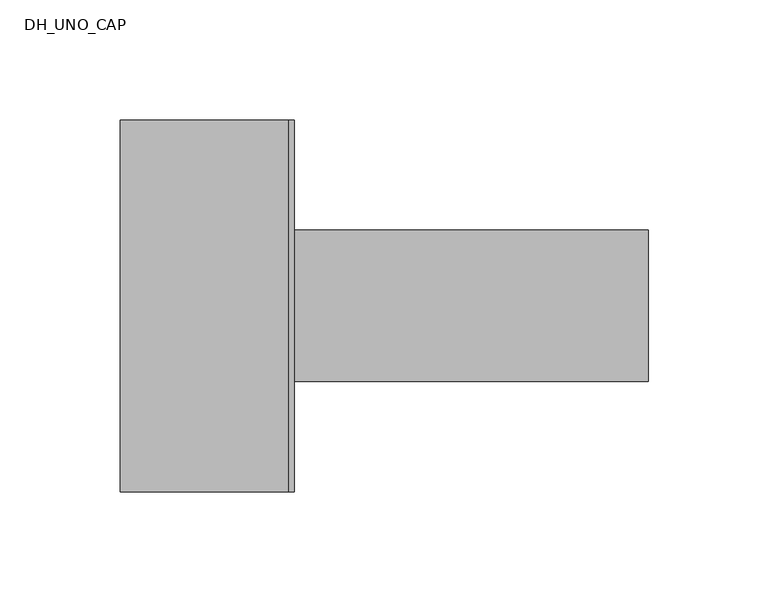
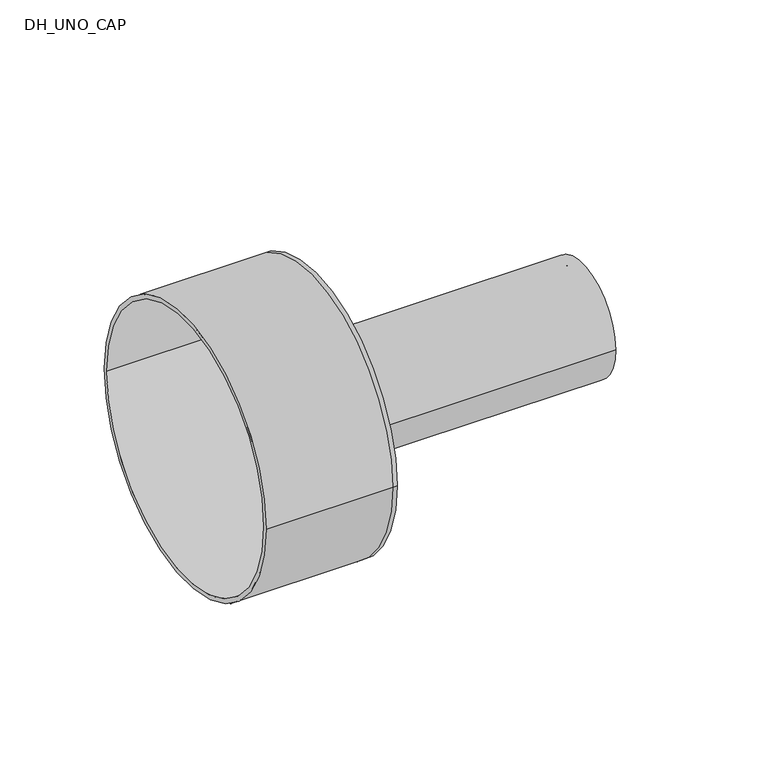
"""IFC4 building model written with IfcOpenShell, lengths in millimetres: pipe fitting geometry, DH_UNO_CAP : RAUVIPEX UNO 11 Heating - Solid Cap."""

from ifc_helpers import new_model, si_unit, point, frame, origin, origin_2d, place, context, project, spatial, polyline, circle_curve, trimmed, segment, composite_curve, outline, extrude, source, transform, mapped, element, save
from ifc_brep_helpers import plane_surface, cylinder_surface, revolved_surface, advanced_brep


def dh_uno_cap_1999be1b(model_context):
    return source(origin(), model_context, "Body", "SolidModel", [
        extrude(outline(composite_curve([segment(trimmed(circle_curve(origin_2d(), 31.5), [point((-31.5, 0.0))], [point((31.5, 0.0))], False, "CARTESIAN"), True, "CONTINUOUS"), segment(trimmed(circle_curve(origin_2d(), 31.5), [point((31.5, 0.0))], [point((-31.5, 0.0))], False, "CARTESIAN"), True, "CONTINUOUS")], self_intersect=False), holes=[composite_curve([segment(trimmed(circle_curve(origin_2d(), 25.7), [point((-25.7, 0.0))], [point((25.7, 0.0))], True, "CARTESIAN"), True, "CONTINUOUS"), segment(trimmed(circle_curve(origin_2d(), 25.7), [point((25.7, 0.0))], [point((-25.7, 0.0))], True, "CARTESIAN"), True, "CONTINUOUS")], self_intersect=False)]), frame((0.0, 0.0, 0.0), z_axis=(1.0, 0.0, 0.0), x_axis=(0.0, 1.0, 0.0)), (0.0, 0.0, 1.0), 150.0),
        advanced_brep(
        [(-70.0, -77.5, 0.0), (-70.0, 77.5, 0.0), (-70.0, -75.0, 0.0), (-70.0, 75.0, 0.0), (0.0, -75.0, 0.0), (0.0, 75.0, 0.0), (0.0, -77.5, 0.0), (0.0, 77.5, 0.0), (0.0, 31.5, 0.0), (0.0, -31.5, 0.0), (2.5, -77.5, 0.0), (2.5, 77.5, 0.0), (2.5, -31.5, 0.0), (2.5, 31.5, 0.0)],
        [
            (0, 1, circle_curve(frame((-70.0, 0.0, 0.0), z_axis=(-1.0, 0.0, 0.0), x_axis=(0.0, 1.0, 0.0)), 77.5)),
            (1, 0, circle_curve(frame((-70.0, 0.0, 0.0), z_axis=(-1.0, 0.0, 0.0), x_axis=(0.0, 1.0, 0.0)), 77.5)),
            (2, 3, circle_curve(frame((-70.0, 0.0, 0.0), z_axis=(1.0, 0.0, 0.0), x_axis=(0.0, 1.0, 0.0)), 75.0)),
            (3, 2, circle_curve(frame((-70.0, 0.0, 0.0), z_axis=(1.0, 0.0, 0.0), x_axis=(0.0, 1.0, 0.0)), 75.0)),
            (2, 4),
            (4, 5, circle_curve(frame((0.0, 0.0, 0.0), z_axis=(1.0, 0.0, 0.0), x_axis=(0.0, 1.0, 0.0)), 75.0)),
            (5, 3),
            (5, 4, circle_curve(frame((0.0, 0.0, 0.0), z_axis=(1.0, 0.0, 0.0), x_axis=(0.0, 1.0, 0.0)), 75.0)),
            (0, 6),
            (6, 7, circle_curve(frame((0.0, 0.0, 0.0), z_axis=(-1.0, 0.0, 0.0), x_axis=(0.0, 1.0, 0.0)), 77.5)),
            (7, 1),
            (7, 6, circle_curve(frame((0.0, 0.0, 0.0), z_axis=(-1.0, 0.0, 0.0), x_axis=(0.0, 1.0, 0.0)), 77.5)),
            (8, 9, circle_curve(frame((0.0, 0.0, 0.0), z_axis=(1.0, 0.0, 0.0), x_axis=(0.0, 1.0, 0.0)), 31.5)),
            (9, 8, circle_curve(frame((0.0, 0.0, 0.0), z_axis=(1.0, 0.0, 0.0), x_axis=(0.0, 1.0, 0.0)), 31.5)),
            (10, 11, circle_curve(frame((2.5, 0.0, 0.0), z_axis=(1.0, 0.0, 0.0), x_axis=(0.0, 1.0, 0.0)), 77.5)),
            (11, 10, circle_curve(frame((2.5, 0.0, 0.0), z_axis=(1.0, 0.0, 0.0), x_axis=(0.0, 1.0, 0.0)), 77.5)),
            (12, 13, circle_curve(frame((2.5, 0.0, 0.0), z_axis=(-1.0, 0.0, 0.0), x_axis=(0.0, 1.0, 0.0)), 31.5)),
            (13, 12, circle_curve(frame((2.5, 0.0, 0.0), z_axis=(-1.0, 0.0, 0.0), x_axis=(0.0, 1.0, 0.0)), 31.5)),
            (11, 7),
            (6, 10),
            (8, 13),
            (12, 9),
        ],
        [
            plane_surface(frame((-70.0, 0.0, 0.0), z_axis=(-1.0, 0.0, 0.0), x_axis=(0.0, 0.0, 1.0))),
            revolved_surface(polyline([(0.0, 75.0, 0.0), (-70.0, 75.0, 0.0)]), (-70.0, 0.0, 0.0), (1.0, 0.0, 0.0)),
            cylinder_surface(frame((-70.0, 0.0, 0.0), z_axis=(-1.0, 0.0, 0.0), x_axis=(0.0, 1.0, 0.0)), 77.5),
            plane_surface(frame((0.0, 0.0, 0.0), z_axis=(-1.0, 0.0, 0.0), x_axis=(0.0, 0.0, 1.0))),
            plane_surface(frame((2.5, 0.0, 0.0), z_axis=(1.0, 0.0, 0.0), x_axis=(0.0, 0.0, 1.0))),
            cylinder_surface(frame((0.0, 0.0, 0.0), z_axis=(-1.0, 0.0, 0.0), x_axis=(0.0, 1.0, 0.0)), 77.5),
            revolved_surface(polyline([(0.0, 31.5, 0.0), (2.5, 31.5, 0.0)]), (0.0, 0.0, 0.0), (-1.0, 0.0, 0.0)),
        ],
        [
            (0, [[1, 2], [3, 4]]),
            (1, [[-3, 5, 6, 7]]),
            (1, [[-4, -7, 8, -5]]),
            (2, [[-1, 9, 10, 11]]),
            (2, [[-2, -11, 12, -9]]),
            (3, [[-6, -8], [13, 14]]),
            (4, [[15, 16], [17, 18]]),
            (5, [[-16, 19, -10, 20]]),
            (5, [[-15, -20, -12, -19]]),
            (6, [[21, -17, 22, -13]]),
            (6, [[-21, -14, -22, -18]]),
        ],
    ),
    ])


if __name__ == "__main__":
    model = new_model("IFC4")
    model_context = context("Model", 3, world=origin())
    ifc_project = project(units=[si_unit("LENGTHUNIT", "METRE", prefix="MILLI")], contexts=[model_context])
    site = spatial("IfcSite", under=ifc_project)
    building = spatial("IfcBuilding", under=site)
    placement = place(None, origin())
    dh_uno_cap_shape = dh_uno_cap_1999be1b(model_context)
    element("IfcPipeFitting", 1, ObjectType="DH_UNO_CAP : RAUVIPEX UNO 11 Heating - Solid Cap", at=placement, inside=building, context=model_context, shape_type="MappedRepresentation", body=[
        mapped(dh_uno_cap_shape, transform((0.0, 0.0, 0.0), x_axis=(1.0, 0.0, 0.0), y_axis=(0.0, 1.0, 0.0), z_axis=(0.0, 0.0, 1.0))),
    ])
    save(model, "model.ifc")
